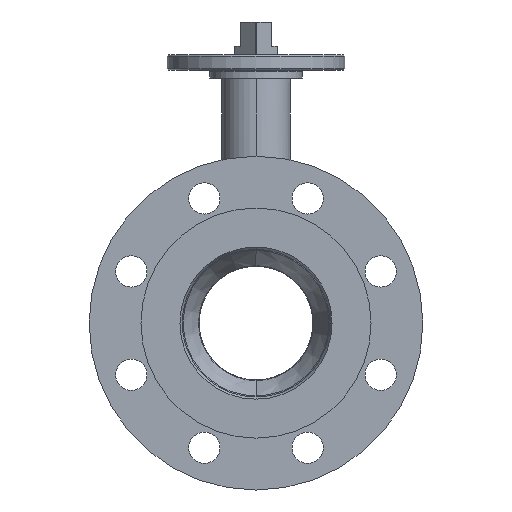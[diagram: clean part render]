
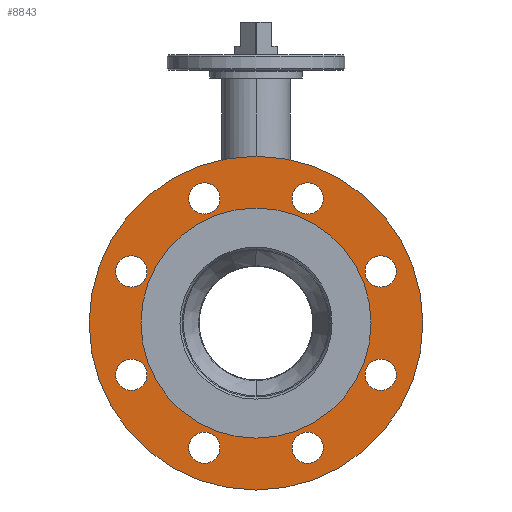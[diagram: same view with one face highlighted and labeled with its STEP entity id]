
A CAD part, left-side view. The second image highlights one B-rep face of the part: STEP entity #8843.
In plain terms, the highlighted planar face has unit normal (-1, 0, 0).
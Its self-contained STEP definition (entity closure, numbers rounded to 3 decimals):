
#1492=CARTESIAN_POINT('',(-173.,0.,0.));
#1493=DIRECTION('',(1.,0.,0.));
#1494=DIRECTION('',(0.,0.,-1.));
#1495=AXIS2_PLACEMENT_3D('',#1492,#1493,#1494);
#1497=CARTESIAN_POINT('',(-173.,0.,0.));
#1498=DIRECTION('',(1.,0.,0.));
#1499=DIRECTION('',(0.,0.,1.));
#1500=AXIS2_PLACEMENT_3D('',#1497,#1498,#1499);
#1502=CARTESIAN_POINT('',(-173.,0.,0.));
#1503=DIRECTION('',(-1.,0.,0.));
#1504=DIRECTION('',(0.,0.,1.));
#1505=AXIS2_PLACEMENT_3D('',#1502,#1503,#1504);
#1507=CARTESIAN_POINT('',(-173.,0.,0.));
#1508=DIRECTION('',(-1.,0.,0.));
#1509=DIRECTION('',(0.,0.,-1.));
#1510=AXIS2_PLACEMENT_3D('',#1507,#1508,#1509);
#1512=CARTESIAN_POINT('',(-173.,36.355,-87.769));
#1513=DIRECTION('',(-1.,0.,0.));
#1514=DIRECTION('',(0.,-1.,0.));
#1515=AXIS2_PLACEMENT_3D('',#1512,#1513,#1514);
#1517=CARTESIAN_POINT('',(-173.,36.355,-87.769));
#1518=DIRECTION('',(-1.,0.,0.));
#1519=DIRECTION('',(0.,1.,0.));
#1520=AXIS2_PLACEMENT_3D('',#1517,#1518,#1519);
#1522=CARTESIAN_POINT('',(-173.,87.769,-36.355));
#1523=DIRECTION('',(-1.,0.,0.));
#1524=DIRECTION('',(0.,-1.,0.));
#1525=AXIS2_PLACEMENT_3D('',#1522,#1523,#1524);
#1527=CARTESIAN_POINT('',(-173.,87.769,-36.355));
#1528=DIRECTION('',(-1.,0.,0.));
#1529=DIRECTION('',(0.,1.,0.));
#1530=AXIS2_PLACEMENT_3D('',#1527,#1528,#1529);
#1532=CARTESIAN_POINT('',(-173.,87.769,36.355));
#1533=DIRECTION('',(-1.,0.,0.));
#1534=DIRECTION('',(0.,-1.,0.));
#1535=AXIS2_PLACEMENT_3D('',#1532,#1533,#1534);
#1537=CARTESIAN_POINT('',(-173.,87.769,36.355));
#1538=DIRECTION('',(-1.,0.,0.));
#1539=DIRECTION('',(0.,1.,0.));
#1540=AXIS2_PLACEMENT_3D('',#1537,#1538,#1539);
#1542=CARTESIAN_POINT('',(-173.,36.355,87.769));
#1543=DIRECTION('',(-1.,0.,0.));
#1544=DIRECTION('',(0.,-1.,0.));
#1545=AXIS2_PLACEMENT_3D('',#1542,#1543,#1544);
#1547=CARTESIAN_POINT('',(-173.,36.355,87.769));
#1548=DIRECTION('',(-1.,0.,0.));
#1549=DIRECTION('',(0.,1.,0.));
#1550=AXIS2_PLACEMENT_3D('',#1547,#1548,#1549);
#1552=CARTESIAN_POINT('',(-173.,-36.355,87.769));
#1553=DIRECTION('',(-1.,0.,0.));
#1554=DIRECTION('',(0.,-1.,0.));
#1555=AXIS2_PLACEMENT_3D('',#1552,#1553,#1554);
#1557=CARTESIAN_POINT('',(-173.,-36.355,87.769));
#1558=DIRECTION('',(-1.,0.,0.));
#1559=DIRECTION('',(0.,1.,0.));
#1560=AXIS2_PLACEMENT_3D('',#1557,#1558,#1559);
#1562=CARTESIAN_POINT('',(-173.,-87.769,36.355));
#1563=DIRECTION('',(-1.,0.,0.));
#1564=DIRECTION('',(0.,-1.,0.));
#1565=AXIS2_PLACEMENT_3D('',#1562,#1563,#1564);
#1567=CARTESIAN_POINT('',(-173.,-87.769,36.355));
#1568=DIRECTION('',(-1.,0.,0.));
#1569=DIRECTION('',(0.,1.,0.));
#1570=AXIS2_PLACEMENT_3D('',#1567,#1568,#1569);
#1572=CARTESIAN_POINT('',(-173.,-87.769,-36.355));
#1573=DIRECTION('',(-1.,0.,0.));
#1574=DIRECTION('',(0.,-1.,0.));
#1575=AXIS2_PLACEMENT_3D('',#1572,#1573,#1574);
#1577=CARTESIAN_POINT('',(-173.,-87.769,-36.355));
#1578=DIRECTION('',(-1.,0.,0.));
#1579=DIRECTION('',(0.,1.,0.));
#1580=AXIS2_PLACEMENT_3D('',#1577,#1578,#1579);
#1582=CARTESIAN_POINT('',(-173.,-36.355,-87.769));
#1583=DIRECTION('',(-1.,0.,0.));
#1584=DIRECTION('',(0.,-1.,0.));
#1585=AXIS2_PLACEMENT_3D('',#1582,#1583,#1584);
#1587=CARTESIAN_POINT('',(-173.,-36.355,-87.769));
#1588=DIRECTION('',(-1.,0.,0.));
#1589=DIRECTION('',(0.,1.,0.));
#1590=AXIS2_PLACEMENT_3D('',#1587,#1588,#1589);
#6374=CARTESIAN_POINT('',(-173.,0.,-117.5));
#6375=CARTESIAN_POINT('',(-173.,0.,117.5));
#6376=VERTEX_POINT('',#6374);
#6377=VERTEX_POINT('',#6375);
#6382=CARTESIAN_POINT('',(-173.,0.,81.));
#6383=CARTESIAN_POINT('',(-173.,0.,-81.));
#6384=VERTEX_POINT('',#6382);
#6385=VERTEX_POINT('',#6383);
#6386=CARTESIAN_POINT('',(-173.,25.355,-87.769));
#6387=CARTESIAN_POINT('',(-173.,47.355,-87.769));
#6388=VERTEX_POINT('',#6386);
#6389=VERTEX_POINT('',#6387);
#6390=CARTESIAN_POINT('',(-173.,76.769,-36.355));
#6391=CARTESIAN_POINT('',(-173.,98.769,-36.355));
#6392=VERTEX_POINT('',#6390);
#6393=VERTEX_POINT('',#6391);
#6394=CARTESIAN_POINT('',(-173.,76.769,36.355));
#6395=CARTESIAN_POINT('',(-173.,98.769,36.355));
#6396=VERTEX_POINT('',#6394);
#6397=VERTEX_POINT('',#6395);
#6398=CARTESIAN_POINT('',(-173.,25.355,87.769));
#6399=CARTESIAN_POINT('',(-173.,47.355,87.769));
#6400=VERTEX_POINT('',#6398);
#6401=VERTEX_POINT('',#6399);
#6402=CARTESIAN_POINT('',(-173.,-47.355,87.769));
#6403=CARTESIAN_POINT('',(-173.,-25.355,87.769));
#6404=VERTEX_POINT('',#6402);
#6405=VERTEX_POINT('',#6403);
#6406=CARTESIAN_POINT('',(-173.,-98.769,36.355));
#6407=CARTESIAN_POINT('',(-173.,-76.769,36.355));
#6408=VERTEX_POINT('',#6406);
#6409=VERTEX_POINT('',#6407);
#6410=CARTESIAN_POINT('',(-173.,-98.769,-36.355));
#6411=CARTESIAN_POINT('',(-173.,-76.769,-36.355));
#6412=VERTEX_POINT('',#6410);
#6413=VERTEX_POINT('',#6411);
#6414=CARTESIAN_POINT('',(-173.,-47.355,-87.769));
#6415=CARTESIAN_POINT('',(-173.,-25.355,-87.769));
#6416=VERTEX_POINT('',#6414);
#6417=VERTEX_POINT('',#6415);
#8779=CARTESIAN_POINT('',(-173.,0.,0.));
#8780=DIRECTION('',(1.,0.,0.));
#8781=DIRECTION('',(0.,0.,1.));
#8782=AXIS2_PLACEMENT_3D('',#8779,#8780,#8781);
#8783=PLANE('',#8782);
#8785=ORIENTED_EDGE('',*,*,#8784,.T.);
#8786=ORIENTED_EDGE('',*,*,#8769,.T.);
#8787=EDGE_LOOP('',(#8785,#8786));
#8788=FACE_OUTER_BOUND('',#8787,.F.);
#8790=ORIENTED_EDGE('',*,*,#8789,.T.);
#8792=ORIENTED_EDGE('',*,*,#8791,.T.);
#8793=EDGE_LOOP('',(#8790,#8792));
#8794=FACE_BOUND('',#8793,.F.);
#8796=ORIENTED_EDGE('',*,*,#8795,.T.);
#8798=ORIENTED_EDGE('',*,*,#8797,.T.);
#8799=EDGE_LOOP('',(#8796,#8798));
#8800=FACE_BOUND('',#8799,.F.);
#8802=ORIENTED_EDGE('',*,*,#8801,.T.);
#8804=ORIENTED_EDGE('',*,*,#8803,.T.);
#8805=EDGE_LOOP('',(#8802,#8804));
#8806=FACE_BOUND('',#8805,.F.);
#8808=ORIENTED_EDGE('',*,*,#8807,.T.);
#8810=ORIENTED_EDGE('',*,*,#8809,.T.);
#8811=EDGE_LOOP('',(#8808,#8810));
#8812=FACE_BOUND('',#8811,.F.);
#8814=ORIENTED_EDGE('',*,*,#8813,.T.);
#8816=ORIENTED_EDGE('',*,*,#8815,.T.);
#8817=EDGE_LOOP('',(#8814,#8816));
#8818=FACE_BOUND('',#8817,.F.);
#8820=ORIENTED_EDGE('',*,*,#8819,.T.);
#8822=ORIENTED_EDGE('',*,*,#8821,.T.);
#8823=EDGE_LOOP('',(#8820,#8822));
#8824=FACE_BOUND('',#8823,.F.);
#8826=ORIENTED_EDGE('',*,*,#8825,.T.);
#8828=ORIENTED_EDGE('',*,*,#8827,.T.);
#8829=EDGE_LOOP('',(#8826,#8828));
#8830=FACE_BOUND('',#8829,.F.);
#8832=ORIENTED_EDGE('',*,*,#8831,.T.);
#8834=ORIENTED_EDGE('',*,*,#8833,.T.);
#8835=EDGE_LOOP('',(#8832,#8834));
#8836=FACE_BOUND('',#8835,.F.);
#8838=ORIENTED_EDGE('',*,*,#8837,.T.);
#8840=ORIENTED_EDGE('',*,*,#8839,.T.);
#8841=EDGE_LOOP('',(#8838,#8840));
#8842=FACE_BOUND('',#8841,.F.);
#8843=ADVANCED_FACE('',(#8788,#8794,#8800,#8806,#8812,#8818,#8824,#8830,#8836,
#8842),#8783,.F.);
#1496=CIRCLE('',#1495,117.5);
#1501=CIRCLE('',#1500,117.5);
#1506=CIRCLE('',#1505,81.);
#1511=CIRCLE('',#1510,81.);
#1516=CIRCLE('',#1515,11.);
#1521=CIRCLE('',#1520,11.);
#1526=CIRCLE('',#1525,11.);
#1531=CIRCLE('',#1530,11.);
#1536=CIRCLE('',#1535,11.);
#1541=CIRCLE('',#1540,11.);
#1546=CIRCLE('',#1545,11.);
#1551=CIRCLE('',#1550,11.);
#1556=CIRCLE('',#1555,11.);
#1561=CIRCLE('',#1560,11.);
#1566=CIRCLE('',#1565,11.);
#1571=CIRCLE('',#1570,11.);
#1576=CIRCLE('',#1575,11.);
#1581=CIRCLE('',#1580,11.);
#1586=CIRCLE('',#1585,11.);
#1591=CIRCLE('',#1590,11.);
#8769=EDGE_CURVE('',#6377,#6376,#1501,.T.);
#8784=EDGE_CURVE('',#6376,#6377,#1496,.T.);
#8789=EDGE_CURVE('',#6384,#6385,#1506,.T.);
#8791=EDGE_CURVE('',#6385,#6384,#1511,.T.);
#8795=EDGE_CURVE('',#6388,#6389,#1516,.T.);
#8797=EDGE_CURVE('',#6389,#6388,#1521,.T.);
#8801=EDGE_CURVE('',#6392,#6393,#1526,.T.);
#8803=EDGE_CURVE('',#6393,#6392,#1531,.T.);
#8807=EDGE_CURVE('',#6396,#6397,#1536,.T.);
#8809=EDGE_CURVE('',#6397,#6396,#1541,.T.);
#8813=EDGE_CURVE('',#6400,#6401,#1546,.T.);
#8815=EDGE_CURVE('',#6401,#6400,#1551,.T.);
#8819=EDGE_CURVE('',#6404,#6405,#1556,.T.);
#8821=EDGE_CURVE('',#6405,#6404,#1561,.T.);
#8825=EDGE_CURVE('',#6408,#6409,#1566,.T.);
#8827=EDGE_CURVE('',#6409,#6408,#1571,.T.);
#8831=EDGE_CURVE('',#6412,#6413,#1576,.T.);
#8833=EDGE_CURVE('',#6413,#6412,#1581,.T.);
#8837=EDGE_CURVE('',#6416,#6417,#1586,.T.);
#8839=EDGE_CURVE('',#6417,#6416,#1591,.T.);
